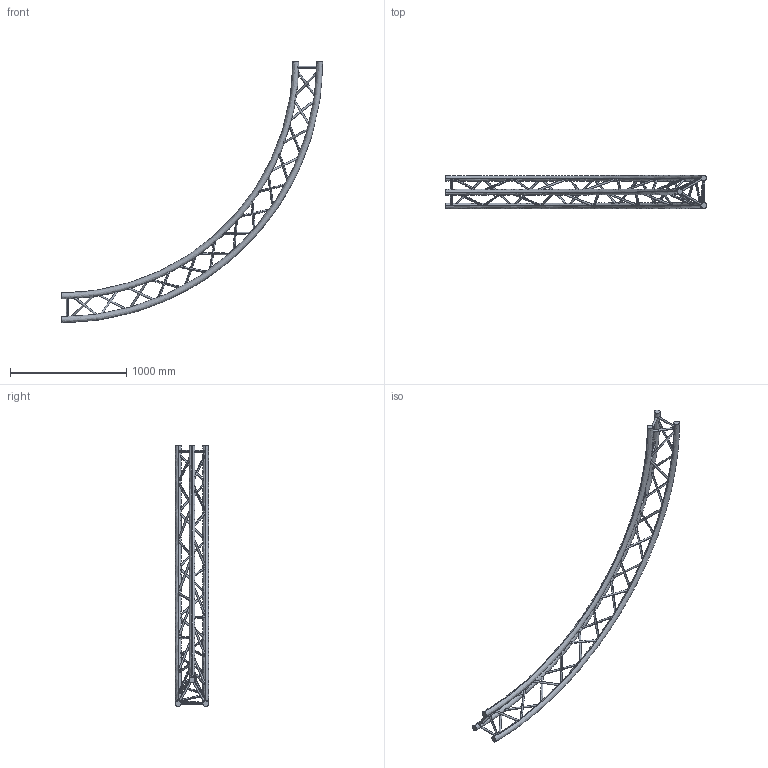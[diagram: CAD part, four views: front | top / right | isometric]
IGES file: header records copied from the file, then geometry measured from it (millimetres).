
Start section: SolidWorks IGES file using analytic representation for surfaces
Global section: file name: K:\BIBLIO\asd_biblio\SX290\Cercles\SXC29PI\SXC29450PI\SXC29450PI.IGS; native system: SolidWorks 2009; preprocessor: SolidWorks 2009; author: des3; date: 091021.105921; units: millimetre
Bounding box: 2250 x 287 x 2250 mm (x, y, z)
Surface area: 2167226.9 mm2 (no closed solid volume)
Topology: 0 solids, 0 shells, 102 faces, 7291 edges, 7291 vertices
Faces by surface type: revolution 90, bspline 12
